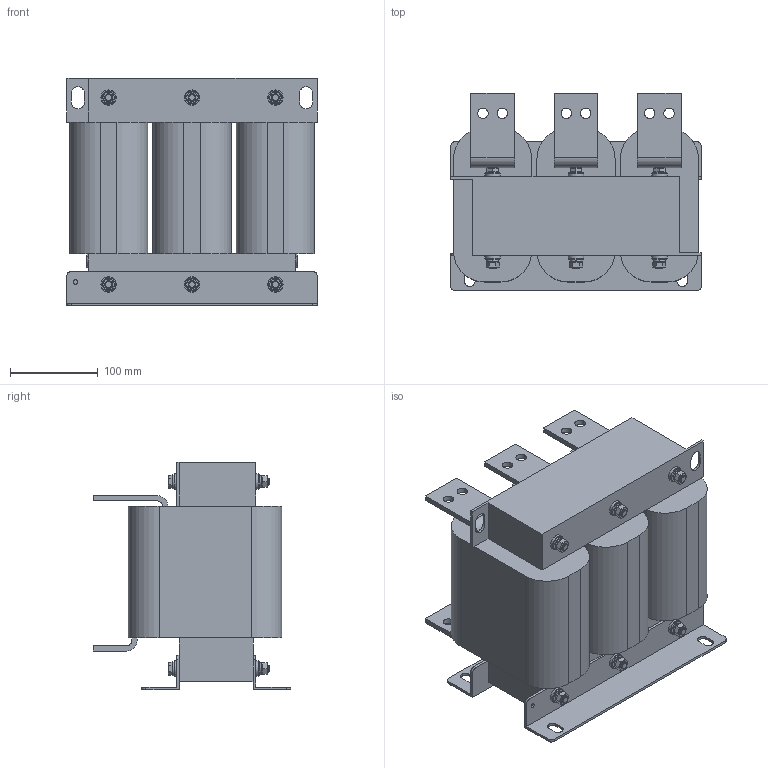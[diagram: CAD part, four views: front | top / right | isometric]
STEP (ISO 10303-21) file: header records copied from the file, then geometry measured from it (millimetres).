
FILE_DESCRIPTION(('STEP AP203'), '1');
FILE_NAME('栖闉罻 _ IMF-280_540-4', '', ('UNSPECIFIED'), ('UNSPECIFIED'), 'ASCON STEP Converter 1.6', 'ASCON Math Kernel', '');
FILE_SCHEMA(('CONFIG_CONTROL_DESIGN'));
Length unit declared in the file: millimetre
Products named in the file (12): IMF-280_540-4
Assembly tree (55 placements, depth 2):
  IMF-280_540-4
    IMF-280_540-4
    IMF-280_540-4  x2
    IMF-280_540-4  x3
    IMF-280_540-4  x3
    IMF-280_540-4  x3
    IMF-280_540-4
    IMF-280_540-4  x12
    IMF-280_540-4  x12
    IMF-280_540-4  x6
    IMF-280_540-4  x6
    IMF-280_540-4  x6
Bounding box: 285 x 225 x 259 mm (x, y, z)
Volume: 8862793.8 mm3; surface area: 642727.9 mm2
Topology: 55 solids, 55 shells, 564 faces, 1182 edges, 734 vertices
Faces by surface type: plane 410, cylinder 130, cone 18, torus 6
Full cylindrical faces by diameter (mm): 5 x2, 8 x48, 12 x12, 16 x12, 17.6 x12
Entity records: 6036 total; most frequent: CARTESIAN_POINT 993, DIRECTION 788, ORIENTED_EDGE 618, EDGE_CURVE 309, AXIS2_PLACEMENT_3D 282, LINE 224, VECTOR 224, VERTEX_POINT 213
